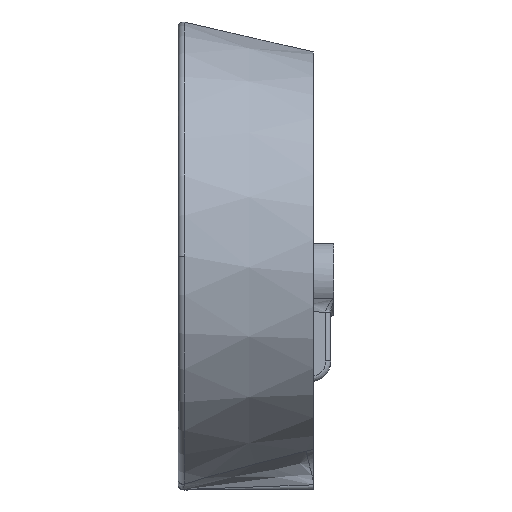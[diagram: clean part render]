
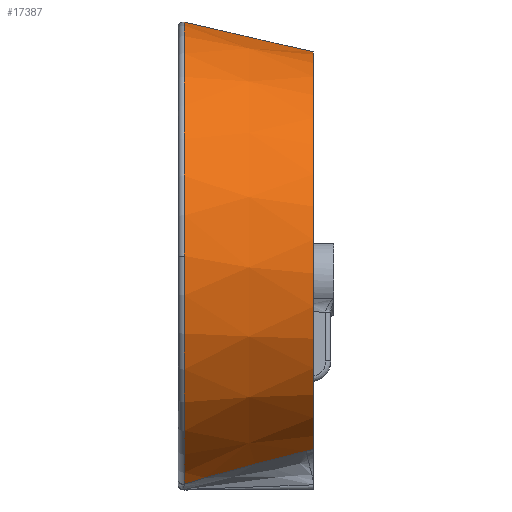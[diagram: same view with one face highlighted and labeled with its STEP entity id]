
A CAD part, left-side view. The second image highlights one B-rep face of the part: STEP entity #17387.
In plain terms, the highlighted conical face has half-angle 12.995 degrees and reference radius 195 mm.
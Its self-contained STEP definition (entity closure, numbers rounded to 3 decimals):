
#89 = CARTESIAN_POINT ( 'NONE',  ( 111.789, -117.157, -369.926 ) ) ;
#161 = VECTOR ( 'NONE', #7277, 1000. ) ;
#233 = CARTESIAN_POINT ( 'NONE',  ( 118.107, -26.041, -393.784 ) ) ;
#395 = CARTESIAN_POINT ( 'NONE',  ( 113.382, -62.706, -383.631 ) ) ;
#421 = CARTESIAN_POINT ( 'NONE',  ( 111.863, -124., -368.285 ) ) ;
#719 = CARTESIAN_POINT ( 'NONE',  ( 174.795, -0.124, -182.257 ) ) ;
#957 = ORIENTED_EDGE ( 'NONE', *, *, #8435, .T. ) ;
#2987 = CARTESIAN_POINT ( 'NONE',  ( 116.819, -33.304, -391.696 ) ) ;
#3773 = CONICAL_SURFACE ( 'NONE', #18831, 195., 0.227 ) ;
#3946 = CARTESIAN_POINT ( 'NONE',  ( 111.789, -117.157, -369.926 ) ) ;
#4408 = CARTESIAN_POINT ( 'NONE',  ( 174.795, -124., 14.128 ) ) ;
#5263 = CARTESIAN_POINT ( 'NONE',  ( 118.585, -23.633, -394.487 ) ) ;
#5304 = CARTESIAN_POINT ( 'NONE',  ( -50.177, -0.124, -182.257 ) ) ;
#5440 = DIRECTION ( 'NONE',  ( 0., -1., 0. ) ) ;
#5742 = CARTESIAN_POINT ( 'NONE',  ( 120.199, -16.458, -396.617 ) ) ;
#5786 = ORIENTED_EDGE ( 'NONE', *, *, #18150, .T. ) ;
#5913 = CARTESIAN_POINT ( 'NONE',  ( 111.762, -97.284, -374.752 ) ) ;
#6624 = EDGE_CURVE ( 'NONE', #26430, #12627, #24783, .T. ) ;
#6945 = AXIS2_PLACEMENT_3D ( 'NONE', #16812, #19083, #19560 ) ;
#7277 = DIRECTION ( 'NONE',  ( 0., 0.974, 0.225 ) ) ;
#8049 = DIRECTION ( 'NONE',  ( 0., 1., 0. ) ) ;
#8435 = EDGE_CURVE ( 'NONE', #29258, #14782, #27482, .T. ) ;
#10133 = CARTESIAN_POINT ( 'NONE',  ( 117.224, -30.876, -392.389 ) ) ;
#10160 = CARTESIAN_POINT ( 'NONE',  ( 111.838, -121.719, -368.832 ) ) ;
#10232 = EDGE_CURVE ( 'NONE', #14782, #30998, #30707, .T. ) ;
#10295 = CARTESIAN_POINT ( 'NONE',  ( 113.026, -67.632, -382.333 ) ) ;
#10442 = CARTESIAN_POINT ( 'NONE',  ( 111.789, -117.157, -369.926 ) ) ;
#10807 = DIRECTION ( 'NONE',  ( 0., 0., 1. ) ) ;
#11267 = CARTESIAN_POINT ( 'NONE',  ( 112.237, -82.44, -378.503 ) ) ;
#11454 = CARTESIAN_POINT ( 'NONE',  ( 174.795, -0.124, -182.257 ) ) ;
#12185 = B_SPLINE_CURVE_WITH_KNOTS ( 'NONE', 3,
 ( #17771, #22801, #17933, #20521, #27884, #27389, #30004, #5742, #27719, #5263, #233, #10133, #2987, #30481, #17614, #15348, #22646, #395, #10295, #12898, #11267, #5913, #21160, #3946 ),
 .UNSPECIFIED., .F., .F.,
 ( 4, 2, 2, 2, 2, 2, 2, 2, 2, 2, 2, 4 ),
 ( 0., 0.004, 0.008, 0.016, 0.023, 0.031, 0.039, 0.046, 0.062, 0.077, 0.093, 0.124 ),
 .UNSPECIFIED. ) ;
#12627 = VERTEX_POINT ( 'NONE', #20527 ) ;
#12898 = CARTESIAN_POINT ( 'NONE',  ( 112.454, -77.499, -379.769 ) ) ;
#13896 = DIRECTION ( 'NONE',  ( 0., 0., -1. ) ) ;
#14782 = VERTEX_POINT ( 'NONE', #5304 ) ;
#15348 = CARTESIAN_POINT ( 'NONE',  ( 114.783, -47.967, -387.6 ) ) ;
#16812 = CARTESIAN_POINT ( 'NONE',  ( 174.795, -124., -182.257 ) ) ;
#16869 = CARTESIAN_POINT ( 'NONE',  ( 174.795, -130., 12.743 ) ) ;
#17387 = ADVANCED_FACE ( 'NONE', ( #30185 ), #3773, .T. ) ;
#17614 = CARTESIAN_POINT ( 'NONE',  ( 115.729, -40.623, -389.635 ) ) ;
#17771 = CARTESIAN_POINT ( 'NONE',  ( 125.478, -0.124, -401.756 ) ) ;
#17933 = CARTESIAN_POINT ( 'NONE',  ( 124.543, -2.404, -401.005 ) ) ;
#18150 = EDGE_CURVE ( 'NONE', #19551, #29258, #19950, .T. ) ;
#18831 = AXIS2_PLACEMENT_3D ( 'NONE', #28063, #8049, #10807 ) ;
#18923 = DIRECTION ( 'NONE',  ( 0., -1., 0. ) ) ;
#18970 = ORIENTED_EDGE ( 'NONE', *, *, #6624, .T. ) ;
#19083 = DIRECTION ( 'NONE',  ( 0., -1., 0. ) ) ;
#19118 = ORIENTED_EDGE ( 'NONE', *, *, #25552, .T. ) ;
#19551 = VERTEX_POINT ( 'NONE', #4408 ) ;
#19560 = DIRECTION ( 'NONE',  ( 1., 0., 0. ) ) ;
#19896 = DIRECTION ( 'NONE',  ( 0., 0., -1. ) ) ;
#19950 = LINE ( 'NONE', #16869, #161 ) ;
#20521 = CARTESIAN_POINT ( 'NONE',  ( 123.687, -4.712, -400.26 ) ) ;
#20527 = CARTESIAN_POINT ( 'NONE',  ( 111.863, -124., -368.285 ) ) ;
#20645 = EDGE_LOOP ( 'NONE', ( #957, #24163, #19118, #18970, #31374, #5786 ) ) ;
#21160 = CARTESIAN_POINT ( 'NONE',  ( 111.681, -107.209, -372.312 ) ) ;
#21231 = AXIS2_PLACEMENT_3D ( 'NONE', #719, #5440, #19896 ) ;
#22646 = CARTESIAN_POINT ( 'NONE',  ( 114.26, -52.874, -386.265 ) ) ;
#22801 = CARTESIAN_POINT ( 'NONE',  ( 124.996, -1.257, -401.38 ) ) ;
#22829 = CARTESIAN_POINT ( 'NONE',  ( 111.813, -119.438, -369.379 ) ) ;
#24163 = ORIENTED_EDGE ( 'NONE', *, *, #10232, .T. ) ;
#24783 = B_SPLINE_CURVE_WITH_KNOTS ( 'NONE', 3,
 ( #89, #22829, #10160, #421 ),
 .UNSPECIFIED., .F., .F.,
 ( 4, 4 ),
 ( 0., 0.007 ),
 .UNSPECIFIED. ) ;
#25324 = EDGE_CURVE ( 'NONE', #19551, #12627, #27189, .T. ) ;
#25552 = EDGE_CURVE ( 'NONE', #30998, #26430, #12185, .T. ) ;
#26430 = VERTEX_POINT ( 'NONE', #10442 ) ;
#27189 = CIRCLE ( 'NONE', #6945, 196.385 ) ;
#27389 = CARTESIAN_POINT ( 'NONE',  ( 122.137, -9.369, -398.786 ) ) ;
#27482 = CIRCLE ( 'NONE', #21231, 224.971 ) ;
#27719 = CARTESIAN_POINT ( 'NONE',  ( 119.631, -18.841, -395.903 ) ) ;
#27884 = CARTESIAN_POINT ( 'NONE',  ( 123.284, -5.872, -399.889 ) ) ;
#28063 = CARTESIAN_POINT ( 'NONE',  ( 174.795, -130., -182.257 ) ) ;
#28634 = AXIS2_PLACEMENT_3D ( 'NONE', #11454, #18923, #13896 ) ;
#29258 = VERTEX_POINT ( 'NONE', #29671 ) ;
#29671 = CARTESIAN_POINT ( 'NONE',  ( 174.795, -0.124, 42.715 ) ) ;
#30004 = CARTESIAN_POINT ( 'NONE',  ( 121.452, -11.722, -398.058 ) ) ;
#30185 = FACE_OUTER_BOUND ( 'NONE', #20645, .T. ) ;
#30481 = CARTESIAN_POINT ( 'NONE',  ( 116.072, -38.177, -390.32 ) ) ;
#30707 = CIRCLE ( 'NONE', #28634, 224.971 ) ;
#30998 = VERTEX_POINT ( 'NONE', #31409 ) ;
#31374 = ORIENTED_EDGE ( 'NONE', *, *, #25324, .F. ) ;
#31409 = CARTESIAN_POINT ( 'NONE',  ( 125.478, -0.124, -401.756 ) ) ;
